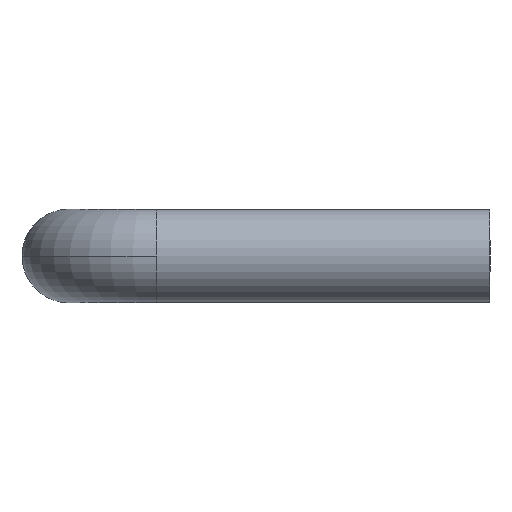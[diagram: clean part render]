
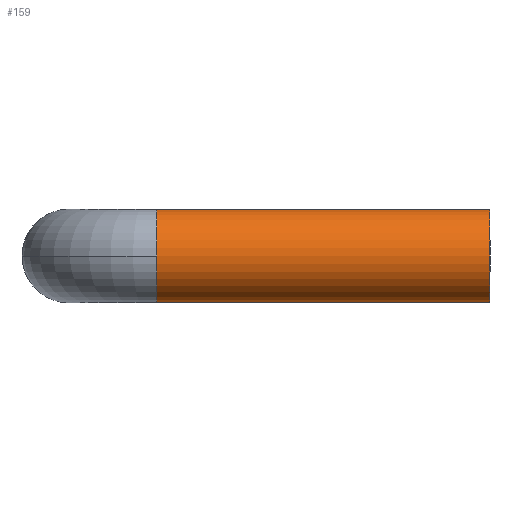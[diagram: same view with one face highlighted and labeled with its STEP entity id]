
A CAD part, left-side view. The second image highlights one B-rep face of the part: STEP entity #159.
In plain terms, the highlighted cylindrical face has radius 4 mm (diameter 8 mm), a partial arc.
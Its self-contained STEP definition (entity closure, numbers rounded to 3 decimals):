
#9 = CARTESIAN_POINT ( 'NONE',  ( -64., -7.5, 0. ) ) ;
#16 = CARTESIAN_POINT ( 'NONE',  ( -60., -36., 4. ) ) ;
#25 = CARTESIAN_POINT ( 'NONE',  ( -60., -7.5, -4. ) ) ;
#30 = CARTESIAN_POINT ( 'NONE',  ( -60., -36., -4. ) ) ;
#35 = VERTEX_POINT ( 'NONE', #30 ) ;
#45 = EDGE_LOOP ( 'NONE', ( #90, #91, #92, #93, #94 ) ) ;
#90 = ORIENTED_EDGE ( 'NONE', *, *, #192, .F. ) ;
#91 = ORIENTED_EDGE ( 'NONE', *, *, #218, .F. ) ;
#92 = ORIENTED_EDGE ( 'NONE', *, *, #210, .F. ) ;
#93 = ORIENTED_EDGE ( 'NONE', *, *, #194, .T. ) ;
#94 = ORIENTED_EDGE ( 'NONE', *, *, #219, .T. ) ;
#123 = VERTEX_POINT ( 'NONE', #16 ) ;
#125 = VERTEX_POINT ( 'NONE', #25 ) ;
#136 = VERTEX_POINT ( 'NONE', #9 ) ;
#141 = VERTEX_POINT ( 'NONE', #238 ) ;
#159 = ADVANCED_FACE ( 'NONE', ( #503 ), #501, .T. ) ;
#179 = CARTESIAN_POINT ( 'NONE',  ( -60., -7.5, 0. ) ) ;
#180 = DIRECTION ( 'NONE',  ( 0., -1., 0. ) ) ;
#182 = DIRECTION ( 'NONE',  ( 0., 0., -1. ) ) ;
#192 = EDGE_CURVE ( 'NONE', #141, #123, #484, .T. ) ;
#194 = EDGE_CURVE ( 'NONE', #125, #35, #481, .T. ) ;
#210 = EDGE_CURVE ( 'NONE', #125, #136, #468, .T. ) ;
#218 = EDGE_CURVE ( 'NONE', #136, #141, #415, .T. ) ;
#219 = EDGE_CURVE ( 'NONE', #35, #123, #416, .T. ) ;
#237 = AXIS2_PLACEMENT_3D ( 'NONE', #179, #180, #182 ) ;
#238 = CARTESIAN_POINT ( 'NONE',  ( -60., -7.5, 4. ) ) ;
#290 = AXIS2_PLACEMENT_3D ( 'NONE', #393, #394, #395 ) ;
#296 = AXIS2_PLACEMENT_3D ( 'NONE', #431, #432, #433 ) ;
#297 = AXIS2_PLACEMENT_3D ( 'NONE', #434, #435, #436 ) ;
#335 = CARTESIAN_POINT ( 'NONE',  ( -60., -7.5, 4. ) ) ;
#344 = DIRECTION ( 'NONE',  ( 0., -1., 0. ) ) ;
#347 = CARTESIAN_POINT ( 'NONE',  ( -60., -7.5, -4. ) ) ;
#348 = DIRECTION ( 'NONE',  ( 0., -1., 0. ) ) ;
#393 = CARTESIAN_POINT ( 'NONE',  ( -60., -7.5, 0. ) ) ;
#394 = DIRECTION ( 'NONE',  ( 0., 1., 0. ) ) ;
#395 = DIRECTION ( 'NONE',  ( -1., 0., 0. ) ) ;
#415 = CIRCLE ( 'NONE', #296, 4. ) ;
#416 = CIRCLE ( 'NONE', #297, 4. ) ;
#431 = CARTESIAN_POINT ( 'NONE',  ( -60., -7.5, 0. ) ) ;
#432 = DIRECTION ( 'NONE',  ( 0., 1., 0. ) ) ;
#433 = DIRECTION ( 'NONE',  ( -1., 0., 0. ) ) ;
#434 = CARTESIAN_POINT ( 'NONE',  ( -60., -36., 0. ) ) ;
#435 = DIRECTION ( 'NONE',  ( 0., 1., 0. ) ) ;
#436 = DIRECTION ( 'NONE',  ( -1., 0., 0. ) ) ;
#468 = CIRCLE ( 'NONE', #290, 4. ) ;
#478 = VECTOR ( 'NONE', #344, 1000. ) ;
#480 = VECTOR ( 'NONE', #348, 1000. ) ;
#481 = LINE ( 'NONE', #347, #478 ) ;
#484 = LINE ( 'NONE', #335, #480 ) ;
#501 = CYLINDRICAL_SURFACE ( 'NONE', #237, 4. ) ;
#503 = FACE_OUTER_BOUND ( 'NONE', #45, .T. ) ;
